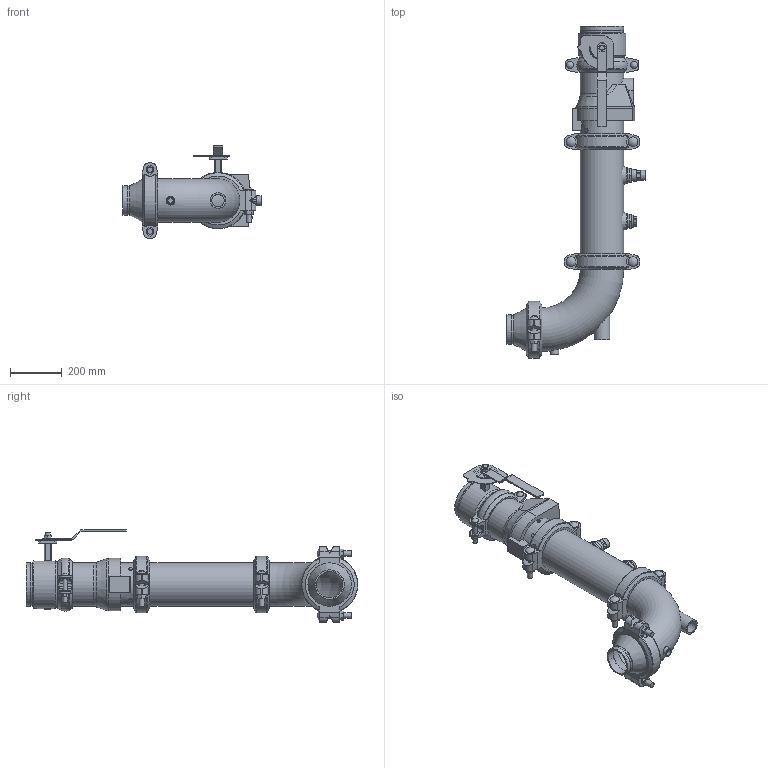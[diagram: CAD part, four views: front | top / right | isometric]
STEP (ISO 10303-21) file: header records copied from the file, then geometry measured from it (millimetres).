
FILE_DESCRIPTION(/* description */ ('VIC DVI PUMP DROP HORZ S/380G (OGSxOGS)','CAx-IF Rec.Pracs.---Representation and Presentation of Product Manufacturing Information (PMI)---4.0---2014-10-13'),/* implementation_level */ '2;1');
FILE_NAME(/* name */ 'C:\Users\kkamble\AppData\Roaming\Autodesk\ApplicationPlugins\Victaulic.Temp\A789\Victaulic_IPS_Horizontal DVI_CL 150_Series 380 (OGSxOGS)_924 (0.75)_06.0x04.0 (150x100).stp',/* time_stamp */ '2021-07-06T09:53:08+05:00',/* author */ ('Vjadhav'),/* organization */ ('Victaulic'),/* preprocessor_version */ 'ST-DEVELOPER v17.2',/* originating_system */ 'Autodesk Inventor 2019',/* authorisation */ '');
FILE_SCHEMA (('AP242_MANAGED_MODEL_BASED_3D_ENGINEERING_MIM_LF { 1 0 10303 442 1 1 4 }'));
Length unit declared in the file: inch
Products named in the file (10): 380_924 (0.75)-06.0x04.0; Pipe-06.0x04.0; 107N-06.0; 761-06.0; 924-04.0x0.75; 923-04.0x0.75; 779-06.0; 100G-06.0; 050-06.0x04.0; 177N-06.0
Assembly tree (11 placements, depth 2):
  380_924 (0.75)-06.0x04.0
    177N-06.0  x3
    Pipe-06.0x04.0
    107N-06.0
    761-06.0
    924-04.0x0.75
    923-04.0x0.75
    779-06.0
    100G-06.0
    050-06.0x04.0
Bounding box: 534.73 x 1285.94 x 359.16 mm (x, y, z)
Volume: 12317480.2 mm3; surface area: 2297591.4 mm2
Topology: 11 solids, 12 shells, 732 faces, 1888 edges, 1259 vertices
Faces by surface type: plane 397, cylinder 258, torus 27, cone 24, bspline 18, sphere 8
Full cylindrical faces by diameter (mm): 4.826 x10, 8.636 x4, 13.716 x4, 15.875 x4, 19.05 x2, 20.93 x1, 21.209 x6, 22.86 x1, 26.67 x4, 27.381 x2, 34.29 x1, 37.694 x6, 38.608 x1, 45.974 x4, 48.26 x1, 55.118 x1, 55.626 x2, 60.96 x1, 102.26 x1, 110.084 x1, 114.3 x2, 154.051 x6, 155.575 x4, 163.957 x9, 168.275 x23, 185.42 x1
Entity records: 18856 total; most frequent: CARTESIAN_POINT 4276, DIRECTION 2997, ORIENTED_EDGE 2756, EDGE_CURVE 1378, AXIS2_PLACEMENT_3D 1148, VERTEX_POINT 923, LINE 701, VECTOR 701
